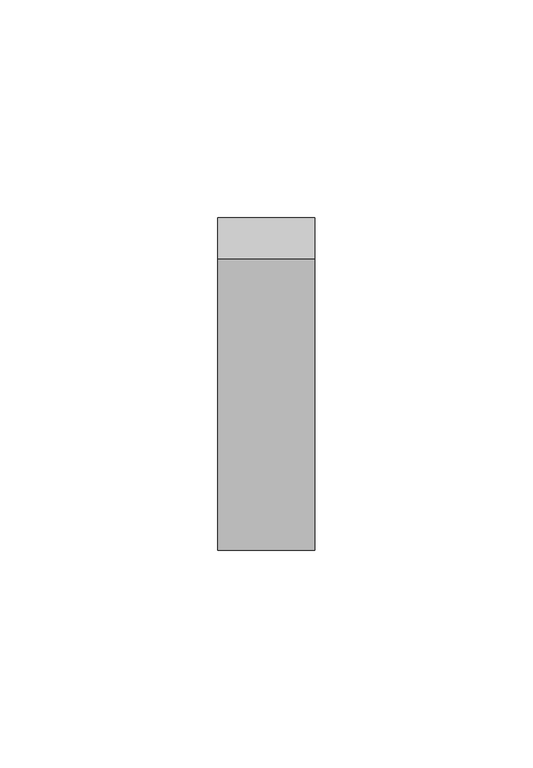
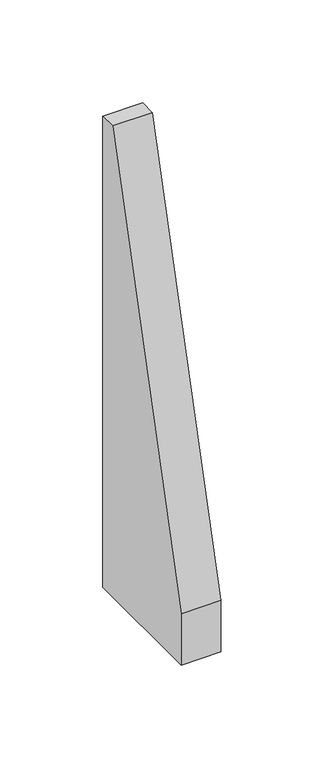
"""IFC4 building model written with IfcOpenShell, lengths in millimetres: proxy geometry, AERO^TABLE 3_ATS2S-4896-REV2-NOPOWER^CANTLIVER SLD 0207."""

from ifc_helpers import new_model, si_unit, frame, origin, place, context, project, spatial, polyline, outline, extrude, source, transform, mapped, element, save


def generic_models_67130a1c(model_context):
    return source(origin(), model_context, "Body", "SweptSolid", [
        extrude(outline(polyline([(76.2, 0.0), (76.2, -279.4), (0.0, -279.4), (0.0, -248.8344876), (66.675, 0.0), (76.2, 0.0)])), frame((0.0, 0.0, 0.0), z_axis=(1.0, 0.0, 0.0), x_axis=(0.0, 1.0, 0.0)), (0.0, 0.0, 1.0), 22.225),
    ])


if __name__ == "__main__":
    model = new_model("IFC4")
    model_context = context("Model", 3, world=origin())
    ifc_project = project(units=[si_unit("LENGTHUNIT", "METRE", prefix="MILLI")], contexts=[model_context])
    site = spatial("IfcSite", under=ifc_project)
    building = spatial("IfcBuilding", under=site)
    placement = place(None, origin())
    generic_models_shape = generic_models_67130a1c(model_context)
    element("IfcBuildingElementProxy", 1, Name="AERO^TABLE 3_ATS2S-4896-REV2-NOPOWER^CANTLIVER SLD 0207", ObjectType="AERO^TABLE 3_ATS2S-4896-REV2-NOPOWER^CANTLIVER SLD 0207", at=placement, inside=building, context=model_context, shape_type="MappedRepresentation", body=[
        mapped(generic_models_shape, transform((0.0, 0.0, 0.0), x_axis=(1.0, 0.0, 0.0), y_axis=(0.0, 1.0, 0.0), z_axis=(0.0, 0.0, 1.0))),
    ])
    save(model, "model.ifc")
